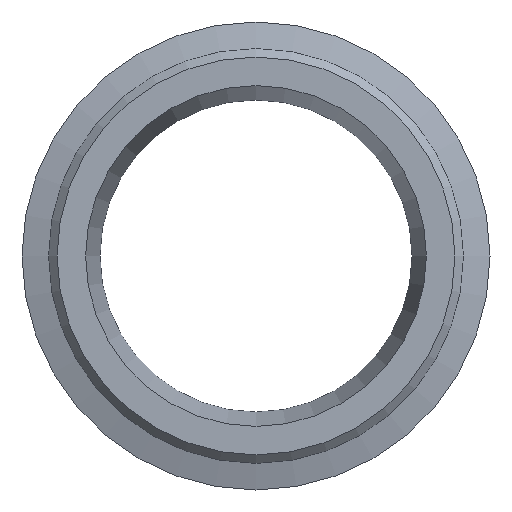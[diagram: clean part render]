
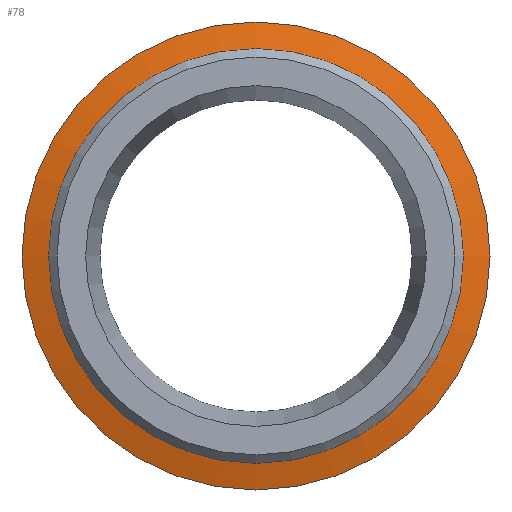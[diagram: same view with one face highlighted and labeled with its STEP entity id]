
A CAD part, left-side view. The second image highlights one B-rep face of the part: STEP entity #78.
In plain terms, the highlighted conical face has half-angle 75 degrees and reference radius 10.634 mm.
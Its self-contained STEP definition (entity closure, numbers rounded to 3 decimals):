
#78=ADVANCED_FACE('',(#97,#98),#99,.T.);
#97=FACE_OUTER_BOUND('',#133,.T.);
#98=FACE_BOUND('',#134,.T.);
#99=CONICAL_SURFACE('',#135,10.634,1.309);
#133=EDGE_LOOP('',(#175));
#134=EDGE_LOOP('',(#176));
#135=AXIS2_PLACEMENT_3D('',#177,#178,#179);
#175=ORIENTED_EDGE('',*,*,#224,.T.);
#176=ORIENTED_EDGE('',*,*,#223,.F.);
#177=CARTESIAN_POINT('',(0.434,0.0,0.0));
#178=DIRECTION('',(1.0,-0.0,0.0));
#179=DIRECTION('',(0.0,0.0,-1.0));
#223=EDGE_CURVE('',#238,#238,#239,.T.);
#224=EDGE_CURVE('',#240,#240,#241,.T.);
#238=VERTEX_POINT('',#262);
#239=CIRCLE('',#263,10.634);
#240=VERTEX_POINT('',#264);
#241=CIRCLE('',#265,12.0);
#262=CARTESIAN_POINT('',(0.434,0.0,10.634));
#263=AXIS2_PLACEMENT_3D('',#289,#290,#291);
#264=CARTESIAN_POINT('',(0.8,0.0,12.0));
#265=AXIS2_PLACEMENT_3D('',#292,#293,#294);
#289=CARTESIAN_POINT('',(0.434,0.0,0.0));
#290=DIRECTION('',(-1.0,0.0,0.0));
#291=DIRECTION('',(0.0,0.0,1.0));
#292=CARTESIAN_POINT('',(0.8,0.0,0.0));
#293=DIRECTION('',(-1.0,0.0,0.0));
#294=DIRECTION('',(0.0,0.0,1.0));
